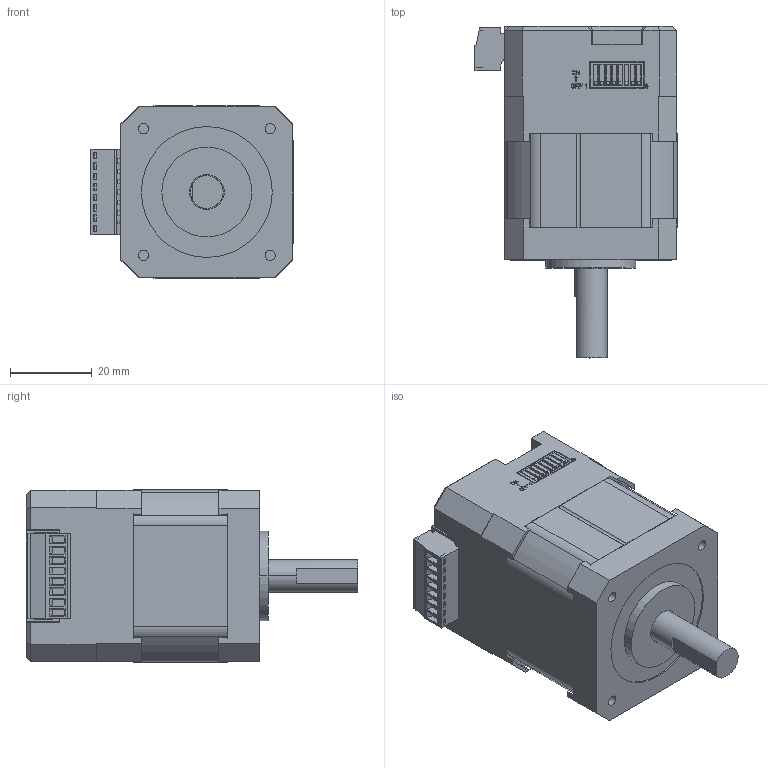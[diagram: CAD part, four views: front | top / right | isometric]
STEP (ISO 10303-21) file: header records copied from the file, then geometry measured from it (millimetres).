
FILE_DESCRIPTION((''),'2;1');
FILE_NAME('IT42AM04-D0824-24V-M','2024-08-10T09:25:38',('ruiwe'),(''),'CREO PARAMETRIC BY PTC INC, 2021063','CREO PARAMETRIC BY PTC INC, 2021063','');
FILE_SCHEMA(('CONFIG_CONTROL_DESIGN','SHAPE_APPEARANCE_LAYERS_GROUPS'));
Products named in the file (1): IT42AM04-D0824-24V-M
Bounding box: 49.45 x 81.2 x 42.2 mm (x, y, z)
Volume: 63187.7 mm3; surface area: 39696.5 mm2
Topology: 3 solids, 156 shells, 1924 faces, 6689 edges, 4945 vertices
Faces by surface type: plane 1358, cylinder 409, torus 56, bspline 38, cone 34, sphere 29
Entity records: 93894 total; most frequent: CARTESIAN_POINT 19578, ORIENTED_EDGE 11476, DIRECTION 10612, EDGE_CURVE 6689, VERTEX_POINT 4945, VECTOR 4938, LINE 4938, PRESENTATION_STYLE_ASSIGNMENT 3614
